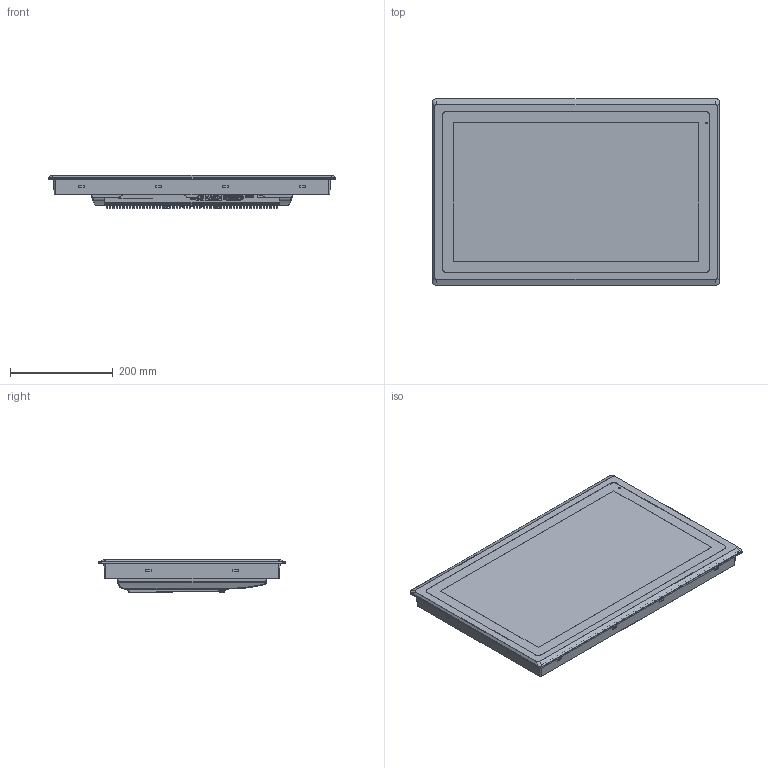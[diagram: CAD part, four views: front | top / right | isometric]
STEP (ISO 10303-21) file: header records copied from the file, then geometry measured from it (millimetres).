
FILE_DESCRIPTION (( 'STEP AP214' ), '1' );
FILE_NAME ('MON6021AP.STEP', '2022-05-06T22:11:25', ( '' ), ( '' ), 'SwSTEP 2.0', 'SolidWorks 2019', '' );
FILE_SCHEMA (( 'AUTOMOTIVE_DESIGN' ));
Length unit declared in the file: inch
Products named in the file (1): MON6021AP
Bounding box: 557.31 x 362.31 x 64.77 mm (x, y, z)
Surface area: 774340.8 mm2 (no closed solid volume)
Topology: 0 solids, 57 shells, 2045 faces, 7324 edges, 5135 vertices
Faces by surface type: plane 702, cylinder 682, bspline 379, torus 159, cone 111, sphere 12
Entity records: 181387 total; most frequent: CARTESIAN_POINT 102311, ORIENTED_EDGE 11590, DIRECTION 7524, EDGE_CURVE 7312, VERTEX_POINT 5127, B_SPLINE_CURVE_WITH_KNOTS 3709, LINE 2860, VECTOR 2860
